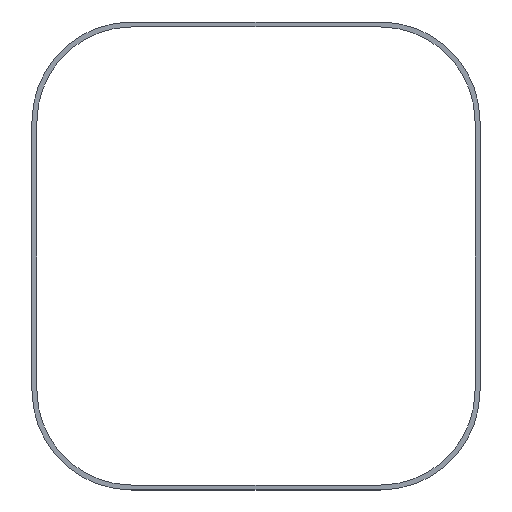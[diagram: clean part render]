
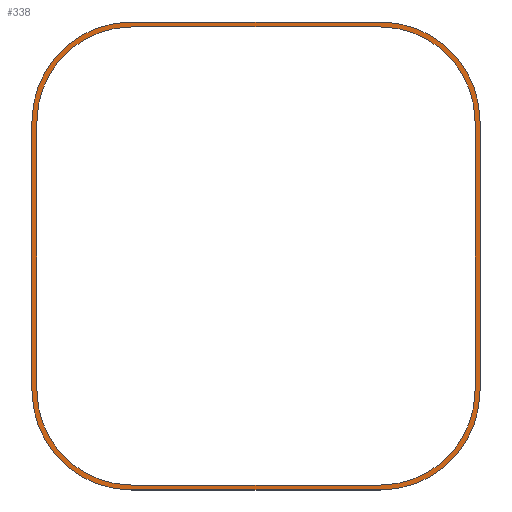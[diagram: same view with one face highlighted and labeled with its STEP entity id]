
A CAD part, top view. The second image highlights one B-rep face of the part: STEP entity #338.
In plain terms, the highlighted planar face has unit normal (0, 0, 1).
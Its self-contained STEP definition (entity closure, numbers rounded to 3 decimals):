
#15=FACE_BOUND('',#55,.T.);
#21=PLANE('',#380);
#36=FACE_OUTER_BOUND('',#54,.T.);
#54=EDGE_LOOP('',(#261,#262,#263,#264,#265,#266,#267,#268));
#55=EDGE_LOOP('',(#269,#270,#271,#272,#273,#274,#275,#276));
#67=LINE('',#509,#99);
#71=LINE('',#521,#103);
#77=LINE('',#541,#109);
#79=LINE('',#544,#111);
#83=LINE('',#557,#115);
#84=LINE('',#561,#116);
#85=LINE('',#565,#117);
#86=LINE('',#568,#118);
#99=VECTOR('',#407,10.);
#103=VECTOR('',#419,10.);
#109=VECTOR('',#439,10.);
#111=VECTOR('',#443,10.);
#115=VECTOR('',#455,10.);
#116=VECTOR('',#458,10.);
#117=VECTOR('',#461,10.);
#118=VECTOR('',#464,10.);
#129=CIRCLE('',#362,9.5);
#131=CIRCLE('',#366,9.5);
#133=CIRCLE('',#370,9.5);
#135=CIRCLE('',#373,9.5);
#138=CIRCLE('',#379,10.);
#139=CIRCLE('',#381,10.);
#140=CIRCLE('',#382,10.);
#141=CIRCLE('',#383,10.);
#145=VERTEX_POINT('',#499);
#146=VERTEX_POINT('',#500);
#149=VERTEX_POINT('',#508);
#151=VERTEX_POINT('',#514);
#153=VERTEX_POINT('',#520);
#155=VERTEX_POINT('',#526);
#156=VERTEX_POINT('',#527);
#159=VERTEX_POINT('',#535);
#161=VERTEX_POINT('',#547);
#164=VERTEX_POINT('',#552);
#165=VERTEX_POINT('',#556);
#166=VERTEX_POINT('',#558);
#167=VERTEX_POINT('',#560);
#168=VERTEX_POINT('',#562);
#169=VERTEX_POINT('',#564);
#170=VERTEX_POINT('',#566);
#177=EDGE_CURVE('',#145,#146,#129,.T.);
#181=EDGE_CURVE('',#146,#149,#67,.T.);
#184=EDGE_CURVE('',#149,#151,#131,.T.);
#187=EDGE_CURVE('',#151,#153,#71,.T.);
#190=EDGE_CURVE('',#155,#156,#133,.T.);
#194=EDGE_CURVE('',#153,#159,#135,.T.);
#197=EDGE_CURVE('',#159,#155,#77,.T.);
#199=EDGE_CURVE('',#156,#145,#79,.T.);
#204=EDGE_CURVE('',#161,#164,#138,.T.);
#205=EDGE_CURVE('',#164,#165,#83,.T.);
#206=EDGE_CURVE('',#165,#166,#139,.T.);
#207=EDGE_CURVE('',#166,#167,#84,.T.);
#208=EDGE_CURVE('',#167,#168,#140,.T.);
#209=EDGE_CURVE('',#168,#169,#85,.T.);
#210=EDGE_CURVE('',#169,#170,#141,.T.);
#211=EDGE_CURVE('',#170,#161,#86,.T.);
#261=ORIENTED_EDGE('',*,*,#205,.T.);
#262=ORIENTED_EDGE('',*,*,#206,.T.);
#263=ORIENTED_EDGE('',*,*,#207,.T.);
#264=ORIENTED_EDGE('',*,*,#208,.T.);
#265=ORIENTED_EDGE('',*,*,#209,.T.);
#266=ORIENTED_EDGE('',*,*,#210,.T.);
#267=ORIENTED_EDGE('',*,*,#211,.T.);
#268=ORIENTED_EDGE('',*,*,#204,.T.);
#269=ORIENTED_EDGE('',*,*,#194,.T.);
#270=ORIENTED_EDGE('',*,*,#197,.T.);
#271=ORIENTED_EDGE('',*,*,#190,.T.);
#272=ORIENTED_EDGE('',*,*,#199,.T.);
#273=ORIENTED_EDGE('',*,*,#177,.T.);
#274=ORIENTED_EDGE('',*,*,#181,.T.);
#275=ORIENTED_EDGE('',*,*,#184,.T.);
#276=ORIENTED_EDGE('',*,*,#187,.T.);
#338=ADVANCED_FACE('',(#36,#15),#21,.T.);
#362=AXIS2_PLACEMENT_3D('',#501,#399,#400);
#366=AXIS2_PLACEMENT_3D('',#515,#412,#413);
#370=AXIS2_PLACEMENT_3D('',#528,#424,#425);
#373=AXIS2_PLACEMENT_3D('',#536,#432,#433);
#379=AXIS2_PLACEMENT_3D('',#554,#451,#452);
#380=AXIS2_PLACEMENT_3D('',#555,#453,#454);
#381=AXIS2_PLACEMENT_3D('',#559,#456,#457);
#382=AXIS2_PLACEMENT_3D('',#563,#459,#460);
#383=AXIS2_PLACEMENT_3D('',#567,#462,#463);
#399=DIRECTION('center_axis',(0.,0.,-1.));
#400=DIRECTION('ref_axis',(1.,0.,0.));
#407=DIRECTION('',(0.,-1.,0.));
#412=DIRECTION('center_axis',(0.,0.,-1.));
#413=DIRECTION('ref_axis',(1.,0.,0.));
#419=DIRECTION('',(-1.,0.,0.));
#424=DIRECTION('center_axis',(0.,0.,-1.));
#425=DIRECTION('ref_axis',(1.,0.,0.));
#432=DIRECTION('center_axis',(0.,0.,-1.));
#433=DIRECTION('ref_axis',(1.,0.,0.));
#439=DIRECTION('',(0.,1.,0.));
#443=DIRECTION('',(1.,0.,0.));
#451=DIRECTION('center_axis',(0.,0.,1.));
#452=DIRECTION('ref_axis',(1.,0.,0.));
#453=DIRECTION('center_axis',(0.,0.,1.));
#454=DIRECTION('ref_axis',(1.,0.,0.));
#455=DIRECTION('',(-1.,0.,0.));
#456=DIRECTION('center_axis',(0.,0.,1.));
#457=DIRECTION('ref_axis',(1.,0.,0.));
#458=DIRECTION('',(0.,-1.,0.));
#459=DIRECTION('center_axis',(0.,0.,1.));
#460=DIRECTION('ref_axis',(1.,0.,0.));
#461=DIRECTION('',(1.,0.,0.));
#462=DIRECTION('center_axis',(0.,0.,1.));
#463=DIRECTION('ref_axis',(1.,0.,0.));
#464=DIRECTION('',(0.,1.,0.));
#499=CARTESIAN_POINT('',(12.5,60.5,0.35));
#500=CARTESIAN_POINT('',(22.,51.,0.35));
#501=CARTESIAN_POINT('Origin',(12.5,51.,0.35));
#508=CARTESIAN_POINT('',(22.,24.,0.35));
#509=CARTESIAN_POINT('',(22.,37.5,0.35));
#514=CARTESIAN_POINT('',(12.5,14.5,0.35));
#515=CARTESIAN_POINT('Origin',(12.5,24.,0.35));
#520=CARTESIAN_POINT('',(-12.5,14.5,0.35));
#521=CARTESIAN_POINT('',(0.,14.5,0.35));
#526=CARTESIAN_POINT('',(-22.,51.,0.35));
#527=CARTESIAN_POINT('',(-12.5,60.5,0.35));
#528=CARTESIAN_POINT('Origin',(-12.5,51.,0.35));
#535=CARTESIAN_POINT('',(-22.,24.,0.35));
#536=CARTESIAN_POINT('Origin',(-12.5,24.,0.35));
#541=CARTESIAN_POINT('',(-22.,37.5,0.35));
#544=CARTESIAN_POINT('',(0.,60.5,0.35));
#547=CARTESIAN_POINT('',(22.5,51.,0.35));
#552=CARTESIAN_POINT('',(12.5,61.,0.35));
#554=CARTESIAN_POINT('Origin',(12.5,51.,0.35));
#555=CARTESIAN_POINT('Origin',(0.,37.5,0.35));
#556=CARTESIAN_POINT('',(-12.5,61.,0.35));
#557=CARTESIAN_POINT('',(0.,61.,0.35));
#558=CARTESIAN_POINT('',(-22.5,51.,0.35));
#559=CARTESIAN_POINT('Origin',(-12.5,51.,0.35));
#560=CARTESIAN_POINT('',(-22.5,24.,0.35));
#561=CARTESIAN_POINT('',(-22.5,37.5,0.35));
#562=CARTESIAN_POINT('',(-12.5,14.,0.35));
#563=CARTESIAN_POINT('Origin',(-12.5,24.,0.35));
#564=CARTESIAN_POINT('',(12.5,14.,0.35));
#565=CARTESIAN_POINT('',(0.,14.,0.35));
#566=CARTESIAN_POINT('',(22.5,24.,0.35));
#567=CARTESIAN_POINT('Origin',(12.5,24.,0.35));
#568=CARTESIAN_POINT('',(22.5,37.5,0.35));
